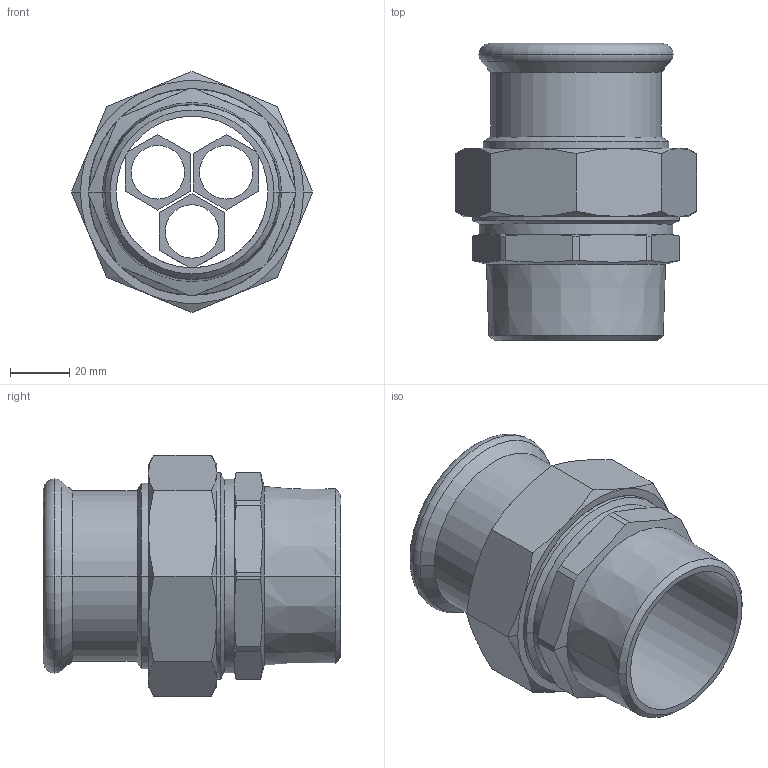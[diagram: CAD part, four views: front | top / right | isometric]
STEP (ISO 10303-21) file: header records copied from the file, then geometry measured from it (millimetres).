
FILE_DESCRIPTION(('OneSpaceDesigner STEP Export'),'2;1');
FILE_NAME('R2735 54xRp2.stp','2010-06-10T13:58:19',(''),(''),'OneSpace Designer STEP processor for AP214 (Solid Model)','OneSpace Modeling 15.00A 14-Mar-2007 (C) CoCreate Software GmbH','');
FILE_SCHEMA(('AUTOMOTIVE_DESIGN { 1 0 10303 214 1 1 1 1 }'));
Length unit declared in the file: millimetre
Products named in the file (2): R2735_54xRp2
Assembly tree (1 placements, depth 2):
  R2735_54xRp2
    R2735_54xRp2
Bounding box: 81.18 x 100 x 81.18 mm (x, y, z)
Volume: 108089.5 mm3; surface area: 50364.1 mm2
Topology: 1 solids, 1 shells, 161 faces, 374 edges, 223 vertices
Faces by surface type: plane 58, cone 54, cylinder 41, torus 8
Entity records: 5805 total; most frequent: CARTESIAN_POINT 2694, ORIENTED_EDGE 748, DIRECTION 466, EDGE_CURVE 374, VERTEX_POINT 223, EDGE_LOOP 177, VECTOR 162, LINE 162
